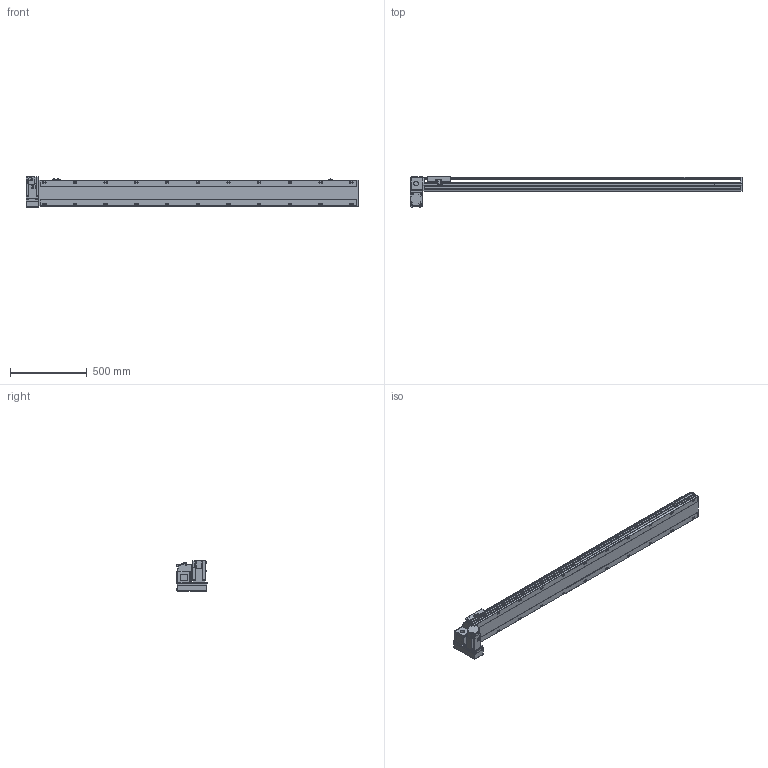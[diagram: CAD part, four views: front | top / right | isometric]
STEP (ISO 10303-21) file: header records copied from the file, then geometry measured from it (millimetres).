
FILE_DESCRIPTION(/* description */ ('STEP AP214'),/* implementation_level */ '2;1');
FILE_NAME(/* name */ 'PBS170-P40-S1800-LD-T75-C1-N(0)',/* time_stamp */ '2022-06-07T09:54:06+02:00',/* author */ ('License CC BY-ND 4.0'),/* organization */ ('CADENAS'),/* preprocessor_version */ 'ST-DEVELOPER v18.102',/* originating_system */ 'PARTsolutions',/* authorisation */ ' ');
FILE_SCHEMA (('AUTOMOTIVE_DESIGN {1 0 10303 214 3 1 1}'));
Length unit declared in the file: millimetre
Products named in the file (7): PBS170-P40-S1800-LD-T75-C1-N(0); PBS170_sensor; PBS170_plant; PBS170_sliser; T75-p1; PBS170T-LD_motors; PBS170-S1800()_body
Assembly tree (8 placements, depth 2):
  PBS170-P40-S1800-LD-T75-C1-N(0)
    PBS170_sensor  x3
    PBS170_plant
    PBS170_sliser
    T75-p1
    PBS170T-LD_motors
    PBS170-S1800()_body
Bounding box: 2163 x 201 x 197.3 mm (x, y, z)
Volume: 16692904.7 mm3; surface area: 2127027.5 mm2
Topology: 8 solids, 8 shells, 1130 faces, 2995 edges, 1952 vertices
Faces by surface type: plane 705, cylinder 363, cone 52, sphere 8, torus 2
Full cylindrical faces by diameter (mm): 3.242 x4, 4 x2, 4.4 x4, 4.5 x6, 4.917 x4, 6 x9, 6.647 x30, 7 x2, 7.5 x4, 8 x8, 8.5 x22, 10 x4, 10.5 x22, 11 x2, 30 x2, 40 x1, 70 x1
Entity records: 32492 total; most frequent: CARTESIAN_POINT 6049, DIRECTION 5510, ORIENTED_EDGE 5208, EDGE_CURVE 2604, AXIS2_PLACEMENT_3D 1927, VERTEX_POINT 1802, LINE 1656, VECTOR 1656
